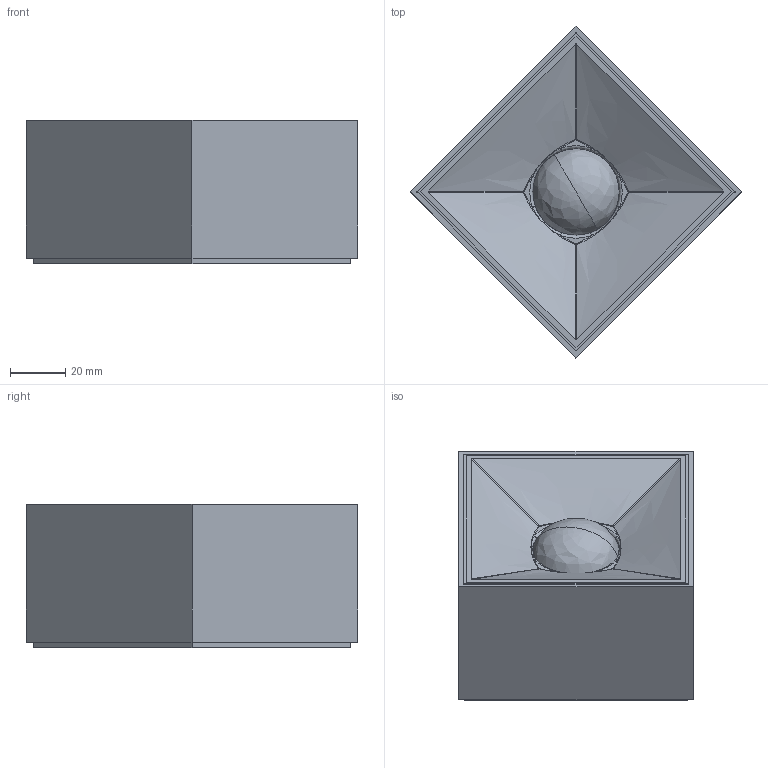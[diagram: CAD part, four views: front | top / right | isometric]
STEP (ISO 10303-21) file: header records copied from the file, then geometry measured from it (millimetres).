
FILE_DESCRIPTION((''),'2;1');
FILE_NAME('PR158_KALEO_ASM','2026-02-24T11:43:16',('Bonardi'),(''),'CREO PARAMETRIC BY PTC INC, 2025010','CREO PARAMETRIC BY PTC INC, 2025010','');
FILE_SCHEMA(('CONFIG_CONTROL_DESIGN'));
Length unit declared in the file: millimetre
Products named in the file (4): CMDF801G; ACLF400W; RIF8000X; PR158_KALEO_ASM
Assembly tree (3 placements, depth 2):
  PR158_KALEO_ASM
    CMDF801G
    ACLF400W
    RIF8000X
Bounding box: 120.21 x 120.21 x 52 mm (x, y, z)
Volume: 101710.6 mm3; surface area: 71297.8 mm2
Topology: 3 solids, 8 shells, 829 faces, 2127 edges, 1315 vertices
Faces by surface type: bspline 462, cylinder 110, plane 108, torus 88, sphere 37, cone 24
Entity records: 36883 total; most frequent: CARTESIAN_POINT 19800, ORIENTED_EDGE 4230, DIRECTION 2711, EDGE_CURVE 2125, VERTEX_POINT 1315, AXIS2_PLACEMENT_3D 1176, B_SPLINE_CURVE_WITH_KNOTS 966, EDGE_LOOP 866
